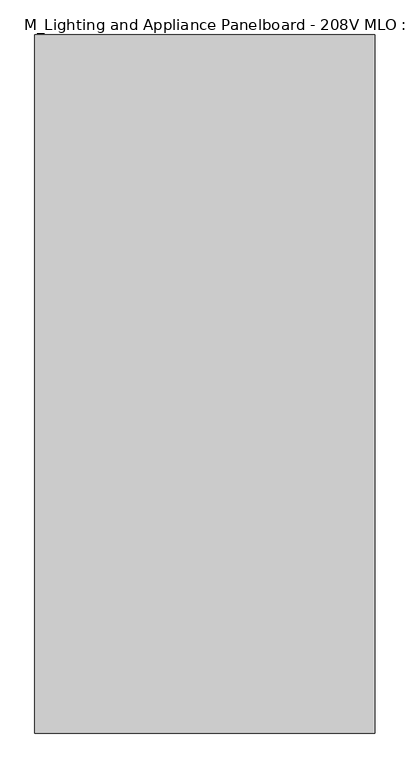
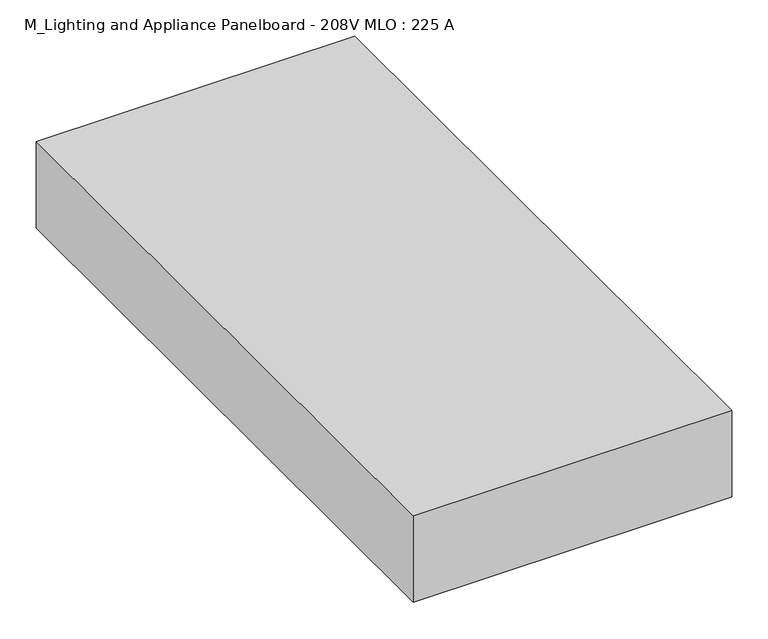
"""IFC4 building model written with IfcOpenShell, lengths in millimetres: electric distribution board geometry, M_Lighting and Appliance Panelboard - 208V MLO : 225 A."""

import ifcopenshell
import ifcopenshell.guid

model = None  # the IFC model being written
_history = None  # IfcOwnerHistory: only IFC2X3 demands one
_inside = {}  # id of a spatial element -> (the spatial element, [elements in it])
_under = {}  # id of a project, library or spatial element -> (it, [spatial elements below it])
_declared = {}  # id of a project -> (the project, [libraries it declares])
_typed = {}  # id of a type object -> (the type object, [elements of that type])
_made_of = {}  # id of a material, layer set ... -> (it, [elements and type objects made of it])


def new_model(schema):
    """Start an empty IFC model of exactly this schema.

    Asked for "IFC4X3", IfcOpenShell would pick the latest addendum, in which some entities
    have other attributes; the version numbers below select the first issue.
    IFC2X3 requires an IfcOwnerHistory on every rooted entity: one is made here for all.
    """
    global model, _history
    if schema == "IFC4X3":
        model = ifcopenshell.file(schema_version=(4, 3, 0, 0))
    else:
        model = ifcopenshell.file(schema=schema)
    _inside.clear()
    _under.clear()
    _declared.clear()
    _typed.clear()
    _made_of.clear()
    _history = None
    if model.schema == "IFC2X3":
        org = make("IfcOrganization", Name="unknown")
        user = make(
            "IfcPersonAndOrganization",
            ThePerson=make("IfcPerson", FamilyName="unknown"),
            TheOrganization=org,
        )
        app = make(
            "IfcApplication",
            ApplicationDeveloper=org,
            Version="unknown",
            ApplicationFullName="unknown",
            ApplicationIdentifier="unknown",
        )
        _history = make(
            "IfcOwnerHistory",
            OwningUser=user,
            OwningApplication=app,
            ChangeAction="ADDED",
            CreationDate=0,
        )
    return model


def make(cls, **values):
    """One entity of the class cls with the attributes given. An attribute that is None is left unset."""
    return model.create_entity(
        cls, **{name: value for name, value in values.items() if value is not None}
    )


def rooted(cls, **values):
    """An entity with a GlobalId (a new one), such as an element, a storey or a relation."""
    return make(cls, GlobalId=ifcopenshell.guid.new(), OwnerHistory=_history, **values)


def si_unit(unit_type, name, prefix=None):
    """IfcSIUnit, for example si_unit("LENGTHUNIT", "METRE", prefix="MILLI")."""
    return make("IfcSIUnit", UnitType=unit_type, Prefix=prefix, Name=name)


def assignment(units):
    """IfcUnitAssignment: the units of a project."""
    return None if units is None else make("IfcUnitAssignment", Units=units)


def point(xyz):
    """IfcCartesianPoint."""
    return None if xyz is None else make("IfcCartesianPoint", Coordinates=xyz)


def direction(xyz):
    """IfcDirection."""
    return None if xyz is None else make("IfcDirection", DirectionRatios=xyz)


def frame(location, z_axis=None, x_axis=None):
    """IfcAxis2Placement3D, a coordinate frame: its origin and axes. An axis left out is left unset."""
    return make(
        "IfcAxis2Placement3D",
        Location=point(location),
        Axis=direction(z_axis),
        RefDirection=direction(x_axis),
    )


def origin():
    """The frame at (0, 0, 0) with its axes left unset."""
    return frame((0.0, 0.0, 0.0))


def place(relative_to, where):
    """IfcLocalPlacement: puts the frame where relative to a parent placement (None: the world)."""
    return make(
        "IfcLocalPlacement", PlacementRelTo=relative_to, RelativePlacement=where
    )


def context(
    kind, dimensions, precision=None, world=None, true_north=None, identifier=None
):
    """IfcGeometricRepresentationContext, for example the 3D "Model" context."""
    return make(
        "IfcGeometricRepresentationContext",
        ContextIdentifier=identifier,
        ContextType=kind,
        CoordinateSpaceDimension=dimensions,
        Precision=precision,
        WorldCoordinateSystem=world,
        TrueNorth=true_north,
    )


def project(units=None, contexts=None):
    """IfcProject with its units and contexts."""
    return rooted(
        "IfcProject",
        Name="project",
        RepresentationContexts=contexts,
        UnitsInContext=assignment(units),
    )


def spatial(cls, under=None, at=None, **own):
    """A site, building, storey or space (cls), placed at a placement, below another one or the project."""
    s = rooted(cls, ObjectPlacement=at, **own)
    if under is not None:
        _under.setdefault(under.id(), (under, []))[1].append(s)
    return s


def polyline(points):
    """IfcPolyline through the points."""
    return make("IfcPolyline", Points=[point(p) for p in points])


def outline(outer, holes=None, kind="AREA"):
    """IfcArbitraryClosedProfileDef: a profile drawn as a closed curve; with holes, ...WithVoids."""
    if holes is None:
        return make("IfcArbitraryClosedProfileDef", ProfileType=kind, OuterCurve=outer)
    return make(
        "IfcArbitraryProfileDefWithVoids",
        ProfileType=kind,
        OuterCurve=outer,
        InnerCurves=holes,
    )


def extrude(swept, where, along, depth):
    """IfcExtrudedAreaSolid: the profile swept, set in the frame where, extruded along a direction by depth."""
    return make(
        "IfcExtrudedAreaSolid",
        SweptArea=swept,
        Position=where,
        ExtrudedDirection=direction(along),
        Depth=depth,
    )


def shape(context_of_items, identifier, shape_type, items):
    """IfcShapeRepresentation: the items that make up one representation, for example the "Body"."""
    return make(
        "IfcShapeRepresentation",
        ContextOfItems=context_of_items,
        RepresentationIdentifier=identifier,
        RepresentationType=shape_type,
        Items=items,
    )


def source(mapping_origin, context_of_items, identifier, shape_type, items):
    """IfcRepresentationMap: a shape defined once, which mapped items show again and again."""
    return make(
        "IfcRepresentationMap",
        MappingOrigin=mapping_origin,
        MappedRepresentation=shape(context_of_items, identifier, shape_type, items),
    )


def transform(
    local_origin,
    x_axis=None,
    y_axis=None,
    z_axis=None,
    scale=None,
    scale2=None,
    scale3=None,
    uniform=True,
):
    """IfcCartesianTransformationOperator3D, or its non-uniform kind. x_axis, y_axis, z_axis: its Axis1, 2, 3."""
    if uniform:
        return make(
            "IfcCartesianTransformationOperator3D",
            Axis1=direction(x_axis),
            Axis2=direction(y_axis),
            LocalOrigin=point(local_origin),
            Scale=scale,
            Axis3=direction(z_axis),
        )
    return make(
        "IfcCartesianTransformationOperator3DnonUniform",
        Axis1=direction(x_axis),
        Axis2=direction(y_axis),
        LocalOrigin=point(local_origin),
        Scale=scale,
        Axis3=direction(z_axis),
        Scale2=scale2,
        Scale3=scale3,
    )


def mapped(mapping_source, mapping_target):
    """IfcMappedItem: shows the shape of a source again, moved by a transform."""
    return make(
        "IfcMappedItem", MappingSource=mapping_source, MappingTarget=mapping_target
    )


def made_of(thing, what):
    """Note that an element or type object is made of a material, layer set ...; save() writes the relation."""
    if what is not None:
        _made_of.setdefault(what.id(), (what, []))[1].append(thing)
    return thing


def element(
    cls,
    number,
    at=None,
    inside=None,
    cuts=None,
    type_object=None,
    material=None,
    context=None,
    identifier="Body",
    shape_type=None,
    held_by="IfcProductDefinitionShape",
    body=None,
    shapes=None,
    **own,
):
    """One element of the class cls, such as IfcWall. Its Tag is "e" and its number.

    at: its placement. inside: the storey or other place that contains it. cuts: it is an
    opening in that element (IfcRelVoidsElement). A single representation is given by context,
    identifier, shape_type and body (its items); several are given by shapes. held_by: the class
    of the entity that holds the representations. save() writes the other relations.
    """
    e = rooted(cls, Tag="e%d" % number, ObjectPlacement=at, **own)
    if body is not None:
        shapes = [shape(context, identifier, shape_type, body)]
    if shapes is not None:
        e.Representation = make(held_by, Representations=shapes)
    if inside is not None:
        _inside.setdefault(inside.id(), (inside, []))[1].append(e)
    if cuts is not None:
        rooted(
            "IfcRelVoidsElement", RelatingBuildingElement=cuts, RelatedOpeningElement=e
        )
    if type_object is not None:
        _typed.setdefault(type_object.id(), (type_object, []))[1].append(e)
    return made_of(e, material)


def aggregate(whole, parts):
    """IfcRelAggregates: a whole, such as a stair, and the parts it consists of."""
    return rooted("IfcRelAggregates", RelatingObject=whole, RelatedObjects=parts)


def save(model, path):
    """Write the relations noted so far, then the file.

    IfcRelAggregates (storeys below a building ...), IfcRelContainedInSpatialStructure (elements
    in a storey), IfcRelDefinesByType, IfcRelAssociatesMaterial and IfcRelDeclares: one each for
    every whole, place, type object, material and project.
    """
    for whole, parts in _under.values():
        aggregate(whole, parts)
    for where, things in _inside.values():
        rooted(
            "IfcRelContainedInSpatialStructure",
            RelatedElements=things,
            RelatingStructure=where,
        )
    for kind, things in _typed.values():
        rooted("IfcRelDefinesByType", RelatedObjects=things, RelatingType=kind)
    for what, things in _made_of.values():
        rooted("IfcRelAssociatesMaterial", RelatedObjects=things, RelatingMaterial=what)
    for by, libraries in _declared.values():
        rooted("IfcRelDeclares", RelatingContext=by, RelatedDefinitions=libraries)
    model.write(path)


def m_lighting_and_appliance_panelboard_208v_mlo_225_a_e62af1ed(model_context):
    return source(origin(), model_context, "Body", "SweptSolid", [
        extrude(outline(polyline([(254.0, 101.6), (254.0, -939.8), (-254.0, -939.8), (-254.0, 101.6), (254.0, 101.6)])), frame((0.0, 0.0, -146.1), z_axis=(0.0, 0.0, 1.0), x_axis=(1.0, 0.0, 0.0)), (0.0, 0.0, 1.0), 146.1),
    ])


if __name__ == "__main__":
    model = new_model("IFC4")
    model_context = context("Model", 3, world=origin())
    ifc_project = project(units=[si_unit("LENGTHUNIT", "METRE", prefix="MILLI")], contexts=[model_context])
    site = spatial("IfcSite", under=ifc_project)
    building = spatial("IfcBuilding", under=site)
    placement = place(None, origin())
    m_lighting_and_appliance_panelboard_208v_mlo_225_a_shape = m_lighting_and_appliance_panelboard_208v_mlo_225_a_e62af1ed(model_context)
    element("IfcElectricDistributionBoard", 1, ObjectType="M_Lighting and Appliance Panelboard - 208V MLO : 225 A", at=placement, inside=building, context=model_context, shape_type="MappedRepresentation", body=[
        mapped(m_lighting_and_appliance_panelboard_208v_mlo_225_a_shape, transform((0.0, 0.0, 0.0), x_axis=(1.0, 0.0, 0.0), y_axis=(0.0, 1.0, 0.0), z_axis=(0.0, 0.0, 1.0))),
    ])
    save(model, "model.ifc")
